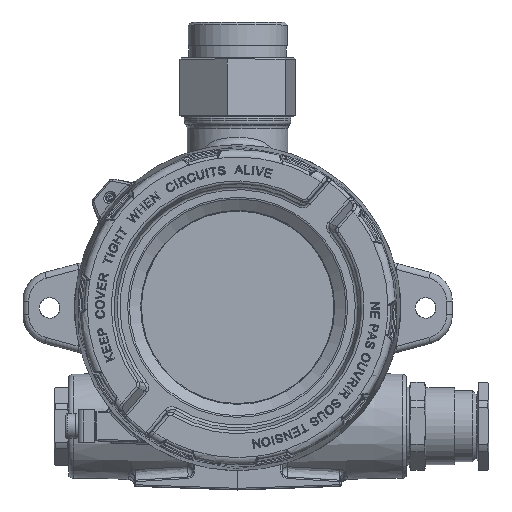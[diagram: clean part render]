
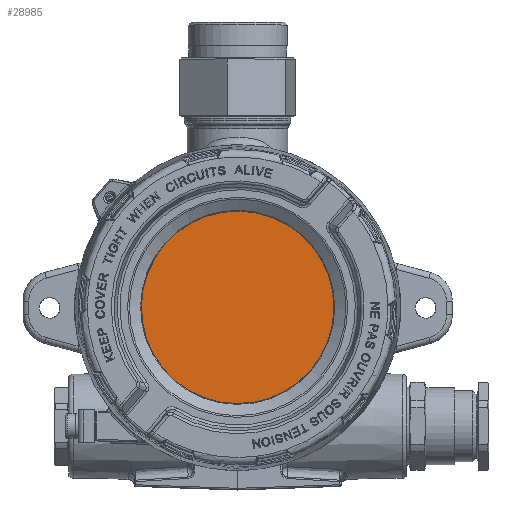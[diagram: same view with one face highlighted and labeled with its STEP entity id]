
A CAD part, top view. The second image highlights one B-rep face of the part: STEP entity #28985.
In plain terms, the highlighted planar face has unit normal (0, 0, 1) as drawn and (1, 0, 0) by its records, which use the part's own axes.
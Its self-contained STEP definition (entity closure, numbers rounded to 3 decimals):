
#2398=PLANE('',#31575);
#4125=FACE_OUTER_BOUND('',#6088,.T.);
#6088=EDGE_LOOP('',(#22240));
#12045=CIRCLE('',#31576,44.5);
#13306=VERTEX_POINT('',#55844);
#16485=EDGE_CURVE('',#13306,#13306,#12045,.F.);
#22240=ORIENTED_EDGE('',*,*,#16485,.T.);
#28985=ADVANCED_FACE('',(#4125),#2398,.F.);
#31575=AXIS2_PLACEMENT_3D('',#55843,#35952,#35953);
#31576=AXIS2_PLACEMENT_3D('',#55845,#35954,#35955);
#35952=DIRECTION('center_axis',(-1.,0.,0.));
#35953=DIRECTION('ref_axis',(0.,-1.,0.));
#35954=DIRECTION('center_axis',(-1.,0.,0.));
#35955=DIRECTION('ref_axis',(0.,-1.,0.));
#55843=CARTESIAN_POINT('Origin',(0.,0.,0.));
#55844=CARTESIAN_POINT('',(0.,0.,-44.5));
#55845=CARTESIAN_POINT('Origin',(0.,0.,0.));
